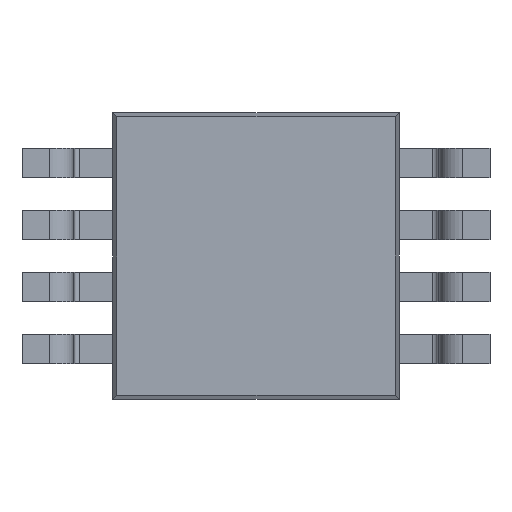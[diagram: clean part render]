
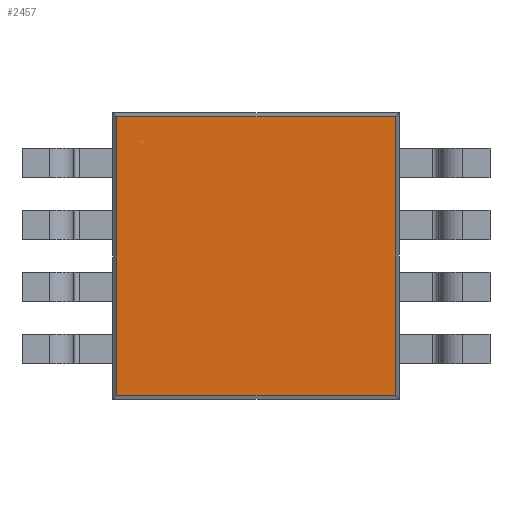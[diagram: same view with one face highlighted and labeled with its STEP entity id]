
A CAD part, front view. The second image highlights one B-rep face of the part: STEP entity #2457.
In plain terms, the highlighted planar face has unit normal (0, -1, 0).
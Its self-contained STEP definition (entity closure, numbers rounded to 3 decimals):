
#29 = CARTESIAN_POINT ( 'NONE',  ( 1.458, 0.3, -1.5 ) ) ;
#50 = VECTOR ( 'NONE', #519, 1000. ) ;
#70 = DIRECTION ( 'NONE',  ( 0., 0., -1. ) ) ;
#79 = ORIENTED_EDGE ( 'NONE', *, *, #864, .T. ) ;
#94 = LINE ( 'NONE', #29, #3175 ) ;
#129 = VERTEX_POINT ( 'NONE', #159 ) ;
#159 = CARTESIAN_POINT ( 'NONE',  ( 1.458, 0.3, 1.458 ) ) ;
#192 = VERTEX_POINT ( 'NONE', #873 ) ;
#351 = PLANE ( 'NONE',  #2973 ) ;
#519 = DIRECTION ( 'NONE',  ( -1., 0., 0. ) ) ;
#642 = CARTESIAN_POINT ( 'NONE',  ( 0., 0.3, 0. ) ) ;
#864 = EDGE_CURVE ( 'NONE', #1839, #192, #3332, .T. ) ;
#873 = CARTESIAN_POINT ( 'NONE',  ( -1.458, 0.3, -1.458 ) ) ;
#914 = VECTOR ( 'NONE', #2948, 1000. ) ;
#978 = VERTEX_POINT ( 'NONE', #3712 ) ;
#1129 = CARTESIAN_POINT ( 'NONE',  ( 1.5, 0.3, 1.458 ) ) ;
#1265 = EDGE_CURVE ( 'NONE', #129, #1839, #1567, .T. ) ;
#1435 = EDGE_CURVE ( 'NONE', #192, #978, #1805, .T. ) ;
#1457 = DIRECTION ( 'NONE',  ( 1., 0., 0. ) ) ;
#1567 = LINE ( 'NONE', #1129, #50 ) ;
#1805 = LINE ( 'NONE', #2958, #2682 ) ;
#1839 = VERTEX_POINT ( 'NONE', #2918 ) ;
#1872 = ORIENTED_EDGE ( 'NONE', *, *, #1265, .T. ) ;
#1891 = DIRECTION ( 'NONE',  ( 0., 0., 1. ) ) ;
#2395 = FACE_OUTER_BOUND ( 'NONE', #2917, .T. ) ;
#2449 = EDGE_CURVE ( 'NONE', #978, #129, #94, .T. ) ;
#2457 = ADVANCED_FACE ( 'NONE', ( #2395 ), #351, .T. ) ;
#2586 = CARTESIAN_POINT ( 'NONE',  ( -1.458, 0.3, 1.5 ) ) ;
#2680 = ORIENTED_EDGE ( 'NONE', *, *, #1435, .T. ) ;
#2682 = VECTOR ( 'NONE', #1457, 1000. ) ;
#2740 = DIRECTION ( 'NONE',  ( 0., -1., 0. ) ) ;
#2917 = EDGE_LOOP ( 'NONE', ( #2680, #3324, #1872, #79 ) ) ;
#2918 = CARTESIAN_POINT ( 'NONE',  ( -1.458, 0.3, 1.458 ) ) ;
#2948 = DIRECTION ( 'NONE',  ( 0., 0., -1. ) ) ;
#2958 = CARTESIAN_POINT ( 'NONE',  ( -1.5, 0.3, -1.458 ) ) ;
#2973 = AXIS2_PLACEMENT_3D ( 'NONE', #642, #2740, #70 ) ;
#3175 = VECTOR ( 'NONE', #1891, 1000. ) ;
#3324 = ORIENTED_EDGE ( 'NONE', *, *, #2449, .T. ) ;
#3332 = LINE ( 'NONE', #2586, #914 ) ;
#3712 = CARTESIAN_POINT ( 'NONE',  ( 1.458, 0.3, -1.458 ) ) ;
